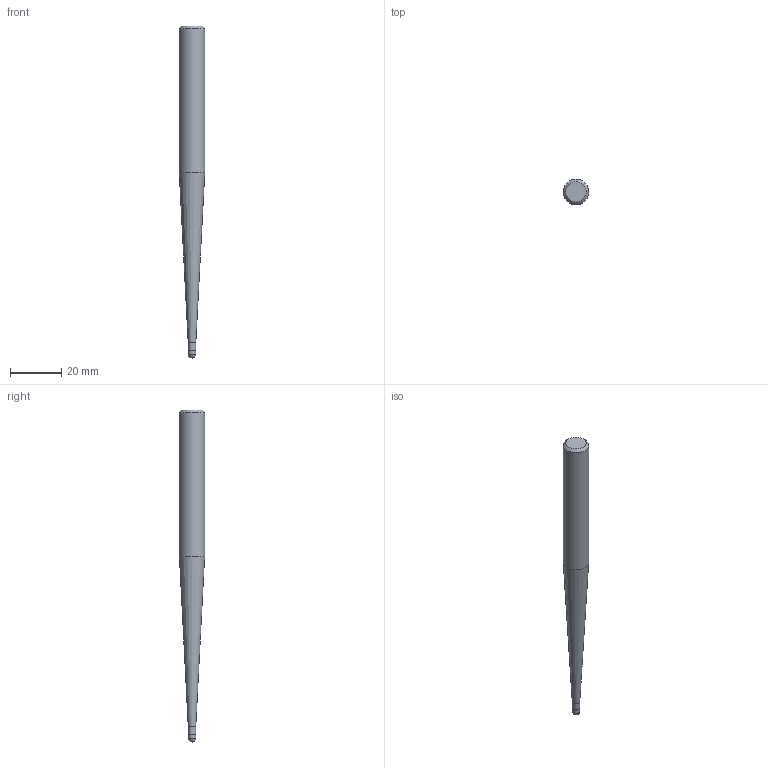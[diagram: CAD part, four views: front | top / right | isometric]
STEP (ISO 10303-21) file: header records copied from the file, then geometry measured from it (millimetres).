
FILE_DESCRIPTION((''),'2;1');
FILE_NAME('C:\Users\nsx150\AppData\Local\Temp\Mastercam 2021\SNAKH10GOD\TEMP.step','2021-10-21T13:33:29',(''),(''),'STEP Write','Mastercam 2021 ... CNC Software, Inc.','');
FILE_SCHEMA(('AUTOMOTIVE_DESIGN'));
Length unit declared in the file: millimetre
Products named in the file (1): None
Bounding box: 10 x 10 x 130 mm (x, y, z)
Volume: 6945.9 mm3; surface area: 3291.2 mm2
Topology: 2 solids, 2 shells, 9 faces, 14 edges, 8 vertices
Faces by surface type: plane 3, cylinder 3, cone 2, sphere 1
Full cylindrical faces by diameter (mm): 2.98 x1, 3 x1, 10 x1
Entity records: 211 total; most frequent: DIRECTION 36, CARTESIAN_POINT 25, AXIS2_PLACEMENT_3D 18, ORIENTED_EDGE 14, EDGE_LOOP 14, STYLED_ITEM 12, ADVANCED_FACE 9, FACE_BOUND 8
